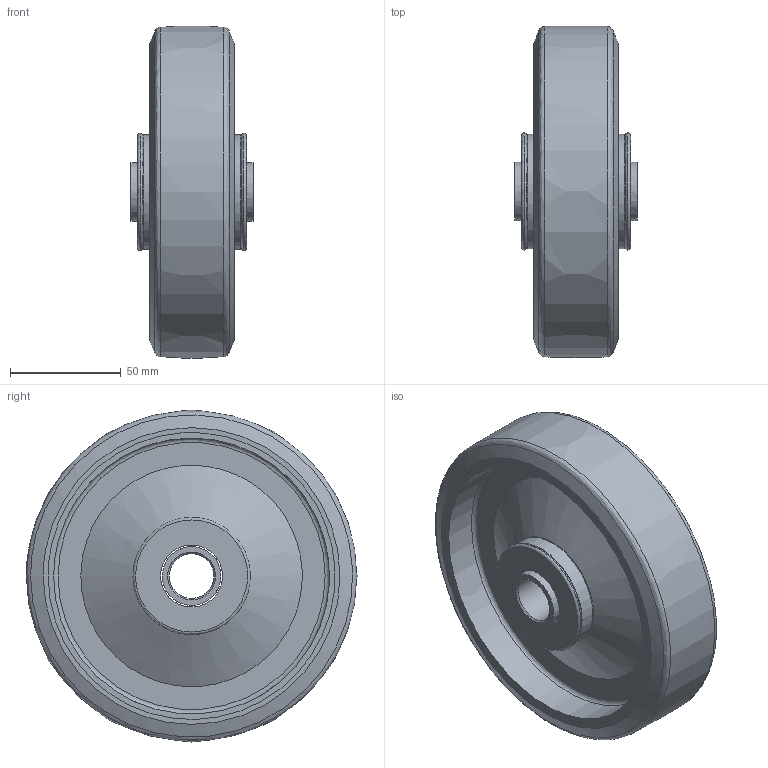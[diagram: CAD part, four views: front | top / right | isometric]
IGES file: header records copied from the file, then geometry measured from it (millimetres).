
Start section: JAMA-IS VERSION  1.0
Global section: file name: C:\CAM-TOOL data\ToolsFile\INOAC車輪\12月\P-150W\P-150W-igs.igs; native system: CAM-TOOL; preprocessor: C3out Version 11.1.1.50212 (2015/02/12); author: NONE; organization: NONE; date: 221224.220738; units: millimetre
Bounding box: 55.1 x 149.57 x 149.91 mm (x, y, z)
Surface area: 155622.7 mm2 (no closed solid volume)
Topology: 0 solids, 0 shells, 215 faces, 1944 edges, 1994 vertices
Faces by surface type: bspline 215
